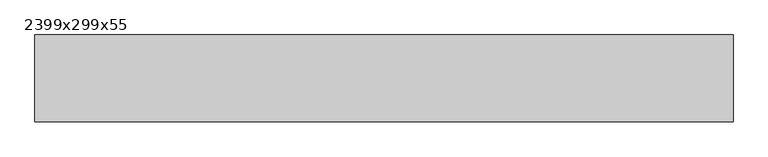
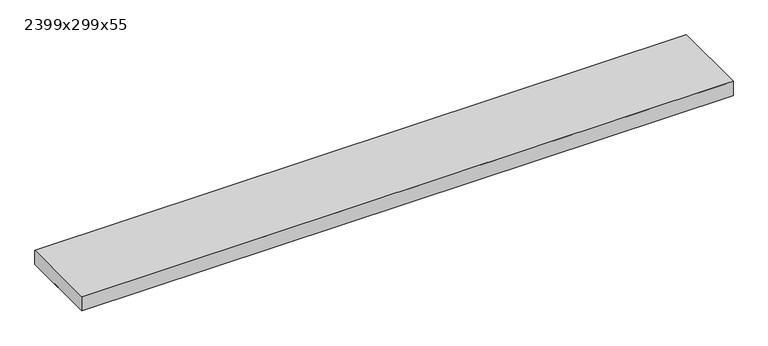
"""IFC4 building model written with IfcOpenShell, lengths in millimetres: proxy geometry, Texaa Panneaux Stereo fixés contre support par système magnétique séparés ou groupés au mur : 2399x299x55."""

from ifc_helpers import new_model, si_unit, frame, origin, place, context, project, spatial, polyline, outline, extrude, faceted_brep, source, transform, mapped, element, save


def proxy_2399x299x55_89af78a4(model_context):
    return source(origin(), model_context, "Body", "SolidModel", [
        extrude(outline(polyline([(-1198.5, 148.5), (1198.5, 148.5), (1198.5, -148.5), (-1198.5, -148.5), (-1198.5, 148.5)])), frame((0.0, 0.0, 11.0), z_axis=(0.0, 0.0, 1.0), x_axis=(1.0, 0.0, 0.0)), (0.0, 0.0, 1.0), 53.0),
        faceted_brep([(1199.5, -149.5, 65.0), (1199.5, 149.5, 65.0), (-1199.5, 149.5, 65.0), (-1199.5, 148.492263, 65.0), (-1199.5, 147.4845259, 65.0), (-1199.5, 99.1131478, 65.0), (-1199.5, -149.5, 65.0), (795.2255572, -149.5, 65.0), (1183.3290223, -149.5, 65.0), (1191.4145111, -149.5, 65.0), (-1199.5, 149.5, 10.0), (1199.5, 149.5, 10.0), (1199.5, -149.5, 10.0), (-1199.5, -149.5, 10.0), (-1149.5, -99.5, 10.0), (1149.5, -99.5, 10.0), (1149.5, 99.5, 10.0), (-1149.5, 99.5, 10.0), (-1199.5, 149.5, 64.0), (1199.5, -149.5, 64.0), (-1149.5, -99.5, 11.0), (1149.5, -99.5, 11.0), (1149.5, 99.5, 11.0), (-1149.5, 99.5, 11.0), (1198.5, 148.5, 64.0), (1198.5, -148.5, 64.0), (1191.4765886, -148.5, 64.0), (1183.3910998, -148.5, 64.0), (1175.3056109, -148.5, 64.0), (787.2021459, -148.5, 64.0), (-1198.5, -148.5, 64.0), (-1198.5, 98.9885126, 64.0), (-1198.5, 147.3598906, 64.0), (-1198.5, 148.5, 64.0), (-1191.4765886, 148.5, 64.0), (-1198.5, 148.5, 11.0), (-1198.5, -148.5, 11.0), (1198.5, -148.5, 11.0), (1198.5, 148.5, 11.0)], [[[0, 1, 2, 3, 4, 5, 6, 7, 8, 9]], [[10, 11, 12, 13], [14, 15, 16, 17]], [[10, 13, 6, 5, 4, 3, 2, 18]], [[13, 12, 19, 0, 9, 8, 7, 6]], [[1, 0, 19, 12, 11]], [[2, 1, 11, 10, 18]], [[14, 20, 21, 15]], [[15, 21, 22, 16]], [[16, 22, 23, 17]], [[20, 14, 17, 23]], [[24, 25, 26, 27, 28, 29, 30, 31, 32, 33, 34]], [[35, 36, 37, 38], [21, 20, 23, 22]], [[36, 35, 33, 32, 31, 30]], [[37, 36, 30, 29, 28, 27, 26, 25]], [[25, 24, 38, 37]], [[35, 38, 24, 34, 33]]]),
    ])


if __name__ == "__main__":
    model = new_model("IFC4")
    model_context = context("Model", 3, world=origin())
    ifc_project = project(units=[si_unit("LENGTHUNIT", "METRE", prefix="MILLI")], contexts=[model_context])
    site = spatial("IfcSite", under=ifc_project)
    building = spatial("IfcBuilding", under=site)
    placement = place(None, origin())
    proxy_2399x299x55_shape = proxy_2399x299x55_89af78a4(model_context)
    element("IfcBuildingElementProxy", 1, Name="Texaa Panneaux Stereo fixés contre support par système magnétique séparés ou groupés au mur : 2399x299x55", ObjectType="Texaa Panneaux Stereo fixés contre support par système magnétique séparés ou groupés au mur : 2399x299x55", at=placement, inside=building, context=model_context, shape_type="MappedRepresentation", body=[
        mapped(proxy_2399x299x55_shape, transform((0.0, 0.0, 0.0), x_axis=(1.0, 0.0, 0.0), y_axis=(0.0, 1.0, 0.0), z_axis=(0.0, 0.0, 1.0))),
    ])
    save(model, "model.ifc")
